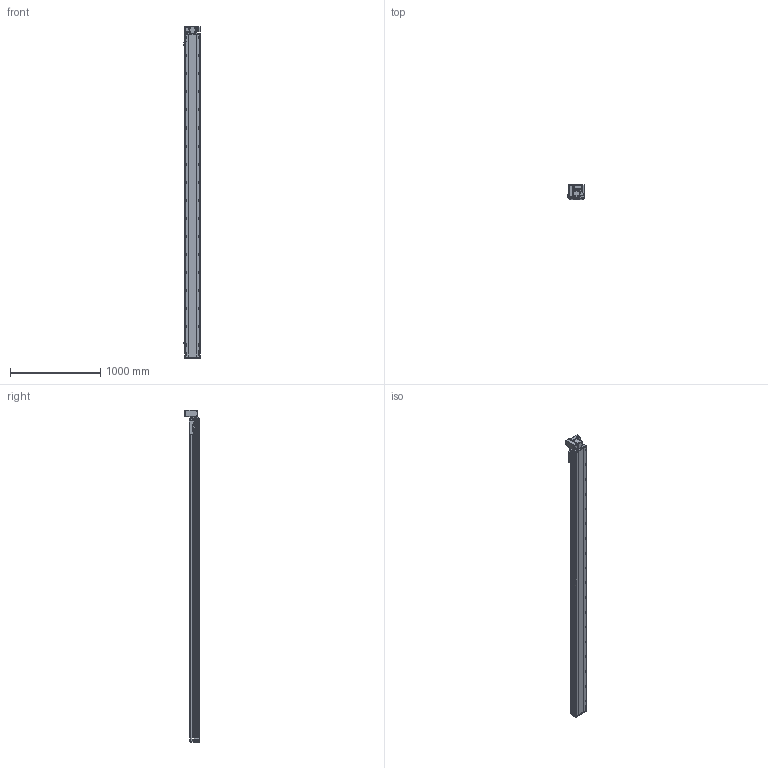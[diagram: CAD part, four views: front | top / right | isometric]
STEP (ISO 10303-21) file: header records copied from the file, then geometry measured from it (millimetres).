
FILE_DESCRIPTION (( 'STEP AP214' ), '1' );
FILE_NAME ('RTB17S-XX-3300-LW-M40-C4.STEP', '2025-12-11T07:23:07', ( '' ), ( '' ), 'SwSTEP 2.0', 'SolidWorks 2018', '' );
FILE_SCHEMA (( 'AUTOMOTIVE_DESIGN' ));
Length unit declared in the file: millimetre
Products named in the file (14): RTB17-R-011菁釱^RTB17S-XX-XX-LW-M40-C4; RTB17S-LW-々湍釱蚾饜-400W^RTB17S-XX-XX-LW-M40-C4; RTB17S-L-007奻裔^RTB17S-XX-XX-LW-M40-C4; RTH13-BL-012覜茼え俋离^RTB17S-XX-XX-LW-M40-C4; RTB17S-L-004佪裝蹟譫蟀諉釱^RTB17S-XX-XX-LW-M40-C4; OMRON EE-SX672 传感器^RTB17S-XX-XX-LW-M40-C4; RTB14-L-005P--轴承塑胶压盖^RTB17S-LW-皮带座装配-400W_RTB17S-XX-XX-LW-M40-C4; RTB17S-L-014-T20--々湍釱^RTB17S-LW-々湍釱蚾饜-400W_RTB17S-XX-XX-LW-M40-C4; RTB17S-XX-3300-LW-M40-C4; RTB14-L-018P^RTB17S-LW-々湍釱蚾饜-400W_RTB17S-XX-XX-LW-M40-C4; 400W侜督萇儂^RTB17S-XX-XX-LW-M40-C4; RTB14-L-017P^RTB17S-LW-々湍釱蚾饜-400W_RTB17S-XX-XX-LW-M40-C4; RTB14-L-008-M20--萇儂啣^RTB17S-LW-々湍釱蚾饜-400W_RTB17S-XX-XX-LW-M40-C4; RTB17S-L-001耜醱啣^RTB17S-XX-XX-LW-M40-C4
Assembly tree (16 placements, depth 3):
  RTB17S-XX-3300-LW-M40-C4
    RTB17-R-011菁釱^RTB17S-XX-XX-LW-M40-C4
    RTB17S-L-007奻裔^RTB17S-XX-XX-LW-M40-C4
    OMRON EE-SX672 传感器^RTB17S-XX-XX-LW-M40-C4  x3
    RTB17S-L-001耜醱啣^RTB17S-XX-XX-LW-M40-C4
    400W侜督萇儂^RTB17S-XX-XX-LW-M40-C4
    RTB17S-L-004佪裝蹟譫蟀諉釱^RTB17S-XX-XX-LW-M40-C4
    RTH13-BL-012覜茼え俋离^RTB17S-XX-XX-LW-M40-C4
    RTB17S-LW-々湍釱蚾饜-400W^RTB17S-XX-XX-LW-M40-C4
      RTB17S-L-014-T20--々湍釱^RTB17S-LW-々湍釱蚾饜-400W_RTB17S-XX-XX-LW-M40-C4
      RTB14-L-005P--轴承塑胶压盖^RTB17S-LW-皮带座装配-400W_RTB17S-XX-XX-LW-M40-C4
      RTB14-L-008-M20--萇儂啣^RTB17S-LW-々湍釱蚾饜-400W_RTB17S-XX-XX-LW-M40-C4
      RTB14-L-017P^RTB17S-LW-々湍釱蚾饜-400W_RTB17S-XX-XX-LW-M40-C4  x2
      RTB14-L-018P^RTB17S-LW-々湍釱蚾饜-400W_RTB17S-XX-XX-LW-M40-C4
Bounding box: 186 x 160.5 x 3672.5 mm (x, y, z)
Volume: 31128025.1 mm3; surface area: 3544334.3 mm2
Topology: 15 solids, 15 shells, 2397 faces, 6735 edges, 4401 vertices
Faces by surface type: plane 1092, cylinder 857, bspline 301, cone 139, torus 8
Entity records: 71849 total; most frequent: CARTESIAN_POINT 20540, ORIENTED_EDGE 10314, DIRECTION 9476, EDGE_CURVE 5157, VERTEX_POINT 3389, AXIS2_PLACEMENT_3D 3319, LINE 2838, VECTOR 2838
